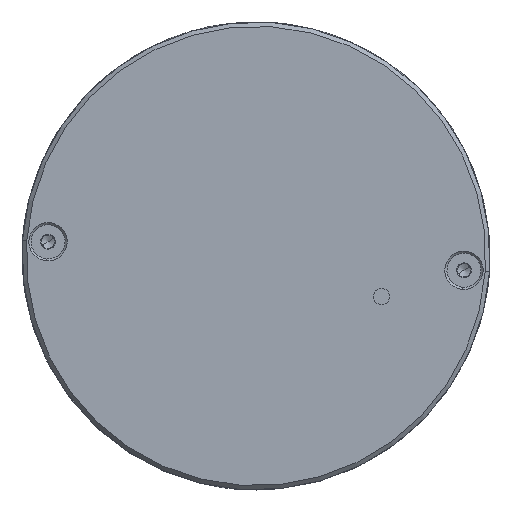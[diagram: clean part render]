
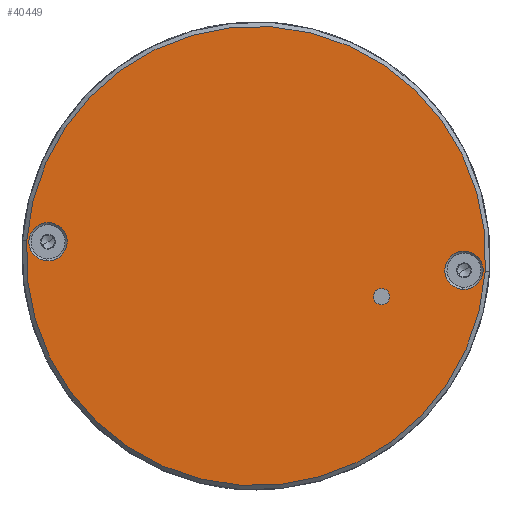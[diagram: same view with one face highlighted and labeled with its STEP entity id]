
A CAD part, front view. The second image highlights one B-rep face of the part: STEP entity #40449.
In plain terms, the highlighted planar face has unit normal (0, -1, 0).
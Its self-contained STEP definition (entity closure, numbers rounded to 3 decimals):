
#2043 = DIRECTION ( 'NONE',  ( 0., -1., 0. ) ) ;
#3002 = EDGE_CURVE ( 'NONE', #57863, #24247, #91607, .T. ) ;
#7131 = CARTESIAN_POINT ( 'NONE',  ( 0., 0., 0. ) ) ;
#7618 = VERTEX_POINT ( 'NONE', #78464 ) ;
#8854 = CARTESIAN_POINT ( 'NONE',  ( 15.04, 0., -3.75 ) ) ;
#10150 = VERTEX_POINT ( 'NONE', #11405 ) ;
#11278 = ORIENTED_EDGE ( 'NONE', *, *, #80882, .T. ) ;
#11405 = CARTESIAN_POINT ( 'NONE',  ( 24.5, 0., -2.25 ) ) ;
#13281 = CARTESIAN_POINT ( 'NONE',  ( 24.5, 0., 0. ) ) ;
#13867 = EDGE_CURVE ( 'NONE', #33043, #22121, #55782, .T. ) ;
#14277 = ORIENTED_EDGE ( 'NONE', *, *, #88929, .F. ) ;
#15093 = DIRECTION ( 'NONE',  ( 0., -1., 0. ) ) ;
#15257 = AXIS2_PLACEMENT_3D ( 'NONE', #7131, #53609, #39442 ) ;
#15348 = EDGE_CURVE ( 'NONE', #24247, #57863, #92807, .T. ) ;
#16237 = DIRECTION ( 'NONE',  ( 0., 0., -1. ) ) ;
#17423 = CARTESIAN_POINT ( 'NONE',  ( 15.99, 0., -3.75 ) ) ;
#17933 = FACE_BOUND ( 'NONE', #42768, .T. ) ;
#18023 = VERTEX_POINT ( 'NONE', #43065 ) ;
#20044 = DIRECTION ( 'NONE',  ( 0., -1., 0. ) ) ;
#20397 = DIRECTION ( 'NONE',  ( 0., 0., -1. ) ) ;
#20466 = CARTESIAN_POINT ( 'NONE',  ( -24.5, 0., 2.25 ) ) ;
#22121 = VERTEX_POINT ( 'NONE', #37422 ) ;
#24247 = VERTEX_POINT ( 'NONE', #20466 ) ;
#24506 = DIRECTION ( 'NONE',  ( 0., 0., -1. ) ) ;
#24914 = CIRCLE ( 'NONE', #15257, 27. ) ;
#25590 = CARTESIAN_POINT ( 'NONE',  ( -24.5, 0., 0. ) ) ;
#26779 = ORIENTED_EDGE ( 'NONE', *, *, #3002, .F. ) ;
#27293 = AXIS2_PLACEMENT_3D ( 'NONE', #31747, #15093, #62006 ) ;
#28676 = ORIENTED_EDGE ( 'NONE', *, *, #87315, .T. ) ;
#30260 = AXIS2_PLACEMENT_3D ( 'NONE', #8854, #63881, #39674 ) ;
#31747 = CARTESIAN_POINT ( 'NONE',  ( 0., 0., 0. ) ) ;
#32082 = CARTESIAN_POINT ( 'NONE',  ( 0., 0., 0. ) ) ;
#33043 = VERTEX_POINT ( 'NONE', #17423 ) ;
#33059 = FACE_BOUND ( 'NONE', #49858, .T. ) ;
#37422 = CARTESIAN_POINT ( 'NONE',  ( 14.09, 0., -3.75 ) ) ;
#39423 = AXIS2_PLACEMENT_3D ( 'NONE', #89206, #20044, #43728 ) ;
#39442 = DIRECTION ( 'NONE',  ( 1., 0., 0. ) ) ;
#39674 = DIRECTION ( 'NONE',  ( 1., 0., 0. ) ) ;
#40098 = AXIS2_PLACEMENT_3D ( 'NONE', #32082, #48731, #24506 ) ;
#40449 = ADVANCED_FACE ( 'NONE', ( #33059, #93689, #17933, #62847 ), #70945, .T. ) ;
#42768 = EDGE_LOOP ( 'NONE', ( #62580, #94173 ) ) ;
#43065 = CARTESIAN_POINT ( 'NONE',  ( 24.5, 0., 2.25 ) ) ;
#43728 = DIRECTION ( 'NONE',  ( 1., 0., 0. ) ) ;
#43847 = AXIS2_PLACEMENT_3D ( 'NONE', #55758, #72471, #72979 ) ;
#44281 = ORIENTED_EDGE ( 'NONE', *, *, #91774, .F. ) ;
#48731 = DIRECTION ( 'NONE',  ( 0., -1., 0. ) ) ;
#49846 = EDGE_LOOP ( 'NONE', ( #44281, #14277 ) ) ;
#49858 = EDGE_LOOP ( 'NONE', ( #26779, #75612 ) ) ;
#52636 = EDGE_CURVE ( 'NONE', #22121, #33043, #65228, .T. ) ;
#53609 = DIRECTION ( 'NONE',  ( 0., -1., 0. ) ) ;
#55758 = CARTESIAN_POINT ( 'NONE',  ( 24.5, 0., 0. ) ) ;
#55782 = CIRCLE ( 'NONE', #30260, 0.95 ) ;
#56093 = AXIS2_PLACEMENT_3D ( 'NONE', #25590, #96245, #56352 ) ;
#56352 = DIRECTION ( 'NONE',  ( 0., 0., -1. ) ) ;
#56544 = AXIS2_PLACEMENT_3D ( 'NONE', #13281, #82507, #20397 ) ;
#57863 = VERTEX_POINT ( 'NONE', #72217 ) ;
#62006 = DIRECTION ( 'NONE',  ( 1., 0., 0. ) ) ;
#62580 = ORIENTED_EDGE ( 'NONE', *, *, #13867, .F. ) ;
#62847 = FACE_OUTER_BOUND ( 'NONE', #73278, .T. ) ;
#63881 = DIRECTION ( 'NONE',  ( 0., -1., 0. ) ) ;
#65228 = CIRCLE ( 'NONE', #39423, 0.95 ) ;
#65465 = AXIS2_PLACEMENT_3D ( 'NONE', #85423, #2043, #16237 ) ;
#70945 = PLANE ( 'NONE',  #40098 ) ;
#72217 = CARTESIAN_POINT ( 'NONE',  ( -24.5, 0., -2.25 ) ) ;
#72471 = DIRECTION ( 'NONE',  ( 0., -1., 0. ) ) ;
#72979 = DIRECTION ( 'NONE',  ( 0., 0., -1. ) ) ;
#73278 = EDGE_LOOP ( 'NONE', ( #28676, #11278 ) ) ;
#75612 = ORIENTED_EDGE ( 'NONE', *, *, #15348, .F. ) ;
#78464 = CARTESIAN_POINT ( 'NONE',  ( -27., 0., 0. ) ) ;
#80596 = CIRCLE ( 'NONE', #27293, 27. ) ;
#80882 = EDGE_CURVE ( 'NONE', #87959, #7618, #24914, .T. ) ;
#82507 = DIRECTION ( 'NONE',  ( 0., -1., 0. ) ) ;
#85423 = CARTESIAN_POINT ( 'NONE',  ( -24.5, 0., 0. ) ) ;
#87202 = CIRCLE ( 'NONE', #56544, 2.25 ) ;
#87315 = EDGE_CURVE ( 'NONE', #7618, #87959, #80596, .T. ) ;
#87403 = CIRCLE ( 'NONE', #43847, 2.25 ) ;
#87959 = VERTEX_POINT ( 'NONE', #97496 ) ;
#88929 = EDGE_CURVE ( 'NONE', #18023, #10150, #87202, .T. ) ;
#89206 = CARTESIAN_POINT ( 'NONE',  ( 15.04, 0., -3.75 ) ) ;
#91607 = CIRCLE ( 'NONE', #56093, 2.25 ) ;
#91774 = EDGE_CURVE ( 'NONE', #10150, #18023, #87403, .T. ) ;
#92807 = CIRCLE ( 'NONE', #65465, 2.25 ) ;
#93689 = FACE_BOUND ( 'NONE', #49846, .T. ) ;
#94173 = ORIENTED_EDGE ( 'NONE', *, *, #52636, .F. ) ;
#96245 = DIRECTION ( 'NONE',  ( 0., -1., 0. ) ) ;
#97496 = CARTESIAN_POINT ( 'NONE',  ( 27., 0., 0. ) ) ;
